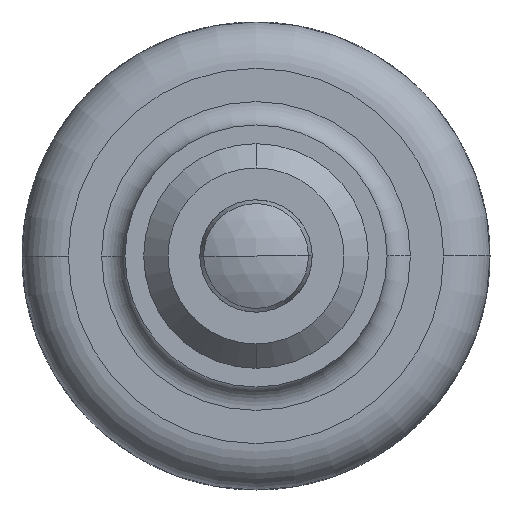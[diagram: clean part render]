
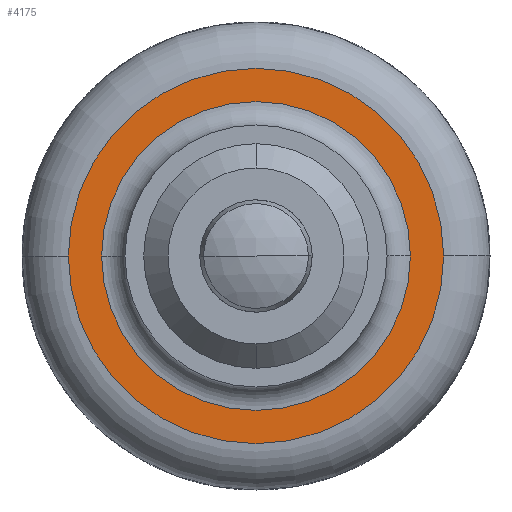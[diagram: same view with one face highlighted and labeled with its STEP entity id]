
A CAD part, front view. The second image highlights one B-rep face of the part: STEP entity #4175.
In plain terms, the highlighted planar face has unit normal (0, -1, 0).
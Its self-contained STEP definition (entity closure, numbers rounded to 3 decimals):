
#2790 = VERTEX_POINT ( 'NONE', #8259 ) ;
#2791 = VERTEX_POINT ( 'NONE', #8258 ) ;
#2792 = EDGE_CURVE ( 'NONE', #2790, #2791, #8257, .T. ) ;
#2889 = EDGE_CURVE ( 'NONE', #2902, #2900, #8419, .T. ) ;
#2900 = VERTEX_POINT ( 'NONE', #8390 ) ;
#2902 = VERTEX_POINT ( 'NONE', #8451 ) ;
#4156 = ORIENTED_EDGE ( 'NONE', *, *, #4157, .T. ) ;
#4157 = EDGE_CURVE ( 'NONE', #2900, #2902, #10523, .T. ) ;
#4158 = ORIENTED_EDGE ( 'NONE', *, *, #2889, .T. ) ;
#4175 = ADVANCED_FACE ( 'NONE', ( #10558, #10553 ), #10552, .F. ) ;
#4221 = EDGE_LOOP ( 'NONE', ( #4222, #4240 ) ) ;
#4222 = ORIENTED_EDGE ( 'NONE', *, *, #4223, .T. ) ;
#4223 = EDGE_CURVE ( 'NONE', #2791, #2790, #10660, .T. ) ;
#4224 = EDGE_LOOP ( 'NONE', ( #4156, #4158 ) ) ;
#4240 = ORIENTED_EDGE ( 'NONE', *, *, #2792, .T. ) ;
#8253 = DIRECTION ( 'NONE',  ( -1., 0., 0. ) ) ;
#8254 = DIRECTION ( 'NONE',  ( 0., 1., 0. ) ) ;
#8255 = CARTESIAN_POINT ( 'NONE',  ( 0., 15.075, 0. ) ) ;
#8256 = AXIS2_PLACEMENT_3D ( 'NONE', #8255, #8254, #8253 ) ;
#8257 = CIRCLE ( 'NONE', #8256, 8.25 ) ;
#8258 = CARTESIAN_POINT ( 'NONE',  ( -8.25, 15.075, 0. ) ) ;
#8259 = CARTESIAN_POINT ( 'NONE',  ( 8.25, 15.075, 0. ) ) ;
#8361 = CARTESIAN_POINT ( 'NONE',  ( 0., 15.075, 0. ) ) ;
#8390 = CARTESIAN_POINT ( 'NONE',  ( -10.025, 15.075, 0. ) ) ;
#8416 = DIRECTION ( 'NONE',  ( -1., 0., 0. ) ) ;
#8417 = DIRECTION ( 'NONE',  ( 0., -1., 0. ) ) ;
#8418 = AXIS2_PLACEMENT_3D ( 'NONE', #8361, #8417, #8416 ) ;
#8419 = CIRCLE ( 'NONE', #8418, 10.025 ) ;
#8451 = CARTESIAN_POINT ( 'NONE',  ( 10.025, 15.075, 0. ) ) ;
#10519 = DIRECTION ( 'NONE',  ( -1., 0., 0. ) ) ;
#10520 = DIRECTION ( 'NONE',  ( 0., -1., 0. ) ) ;
#10521 = CARTESIAN_POINT ( 'NONE',  ( 0., 15.075, 0. ) ) ;
#10522 = AXIS2_PLACEMENT_3D ( 'NONE', #10521, #10520, #10519 ) ;
#10523 = CIRCLE ( 'NONE', #10522, 10.025 ) ;
#10549 = DIRECTION ( 'NONE',  ( 0., 1., 0. ) ) ;
#10550 = CARTESIAN_POINT ( 'NONE',  ( 0., 15.075, 0. ) ) ;
#10551 = AXIS2_PLACEMENT_3D ( 'NONE', #10550, #10549, #10612 ) ;
#10552 = PLANE ( 'NONE',  #10551 ) ;
#10553 = FACE_OUTER_BOUND ( 'NONE', #4224, .T. ) ;
#10558 = FACE_BOUND ( 'NONE', #4221, .T. ) ;
#10612 = DIRECTION ( 'NONE',  ( -1., 0., 0. ) ) ;
#10657 = DIRECTION ( 'NONE',  ( -1., 0., 0. ) ) ;
#10658 = DIRECTION ( 'NONE',  ( 0., 1., 0. ) ) ;
#10659 = AXIS2_PLACEMENT_3D ( 'NONE', #10667, #10658, #10657 ) ;
#10660 = CIRCLE ( 'NONE', #10659, 8.25 ) ;
#10667 = CARTESIAN_POINT ( 'NONE',  ( 0., 15.075, 0. ) ) ;
